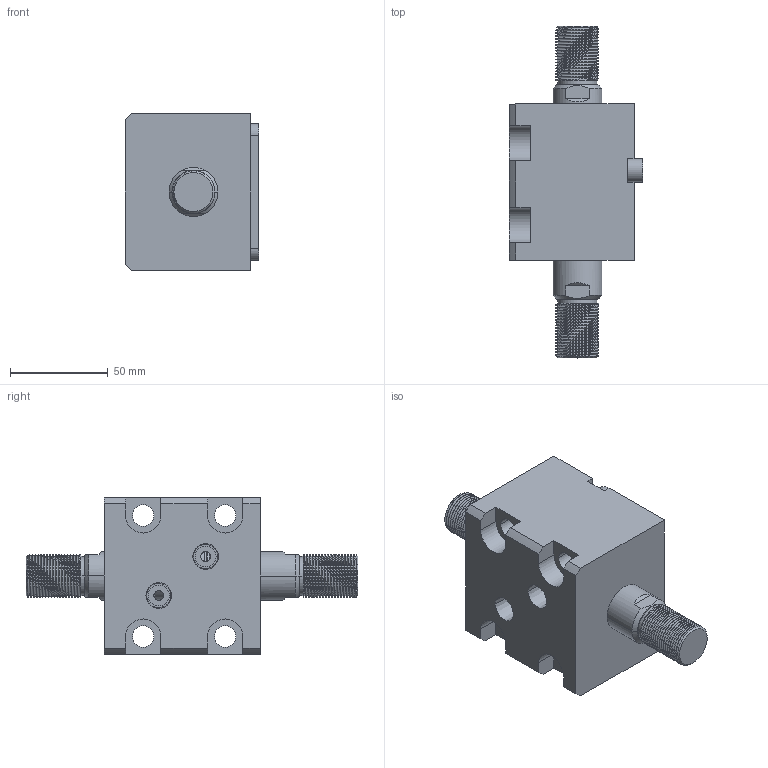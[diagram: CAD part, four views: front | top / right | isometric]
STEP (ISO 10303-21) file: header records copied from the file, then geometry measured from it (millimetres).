
FILE_DESCRIPTION (( 'STEP AP214' ), '1' );
FILE_NAME ('chtb-lw40x10w_asm.STEP', '2018-06-04T06:15:12', ( 'Windows' ), ( 'Microsoft' ), 'SwSTEP 2.0', 'SolidWorks 2015', '' );
FILE_SCHEMA (( 'AUTOMOTIVE_DESIGN' ));
Length unit declared in the file: millimetre
Products named in the file (5): CHTB-LA40PJ; chtb-lw40x10w_asm; CHTB-SW40X10NHSG; CHTB-SD40QG; CHTB-LW40X10NBT
Assembly tree (4 placements, depth 2):
  chtb-lw40x10w_asm
    CHTB-LA40PJ
    CHTB-LW40X10NBT
    CHTB-SD40QG
    CHTB-SW40X10NHSG
Bounding box: 68.5 x 170 x 80 mm (x, y, z)
Volume: 401846.9 mm3; surface area: 82850.6 mm2
Topology: 4 solids, 4 shells, 258 faces, 711 edges, 473 vertices
Faces by surface type: cylinder 152, plane 59, bspline 18, cone 17, torus 12
Entity records: 17539 total; most frequent: CARTESIAN_POINT 11292, ORIENTED_EDGE 1410, DIRECTION 1124, EDGE_CURVE 705, VERTEX_POINT 473, AXIS2_PLACEMENT_3D 433, EDGE_LOOP 292, VECTOR 258
